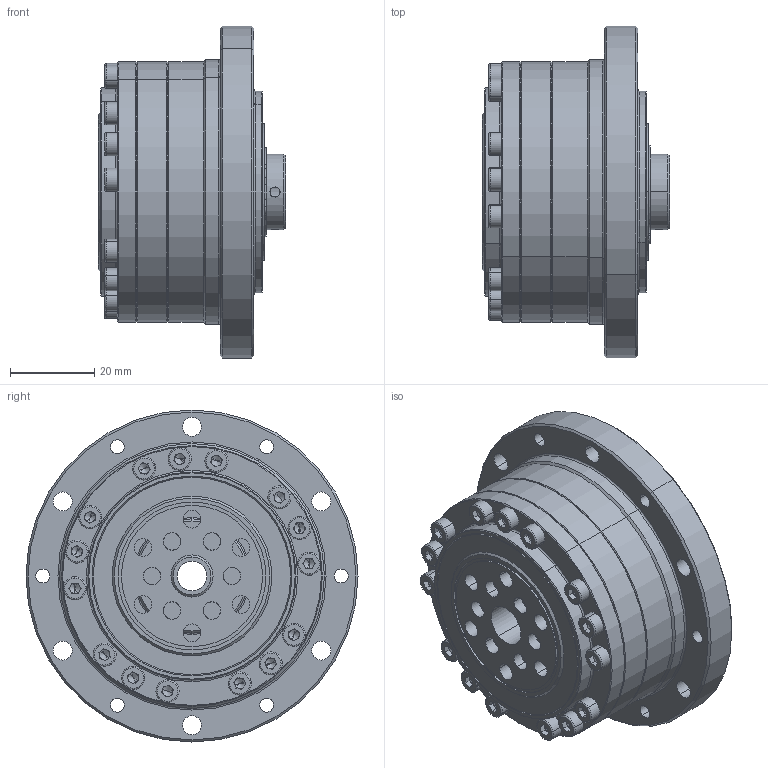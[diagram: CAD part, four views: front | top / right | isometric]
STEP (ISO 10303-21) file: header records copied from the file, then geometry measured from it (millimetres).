
FILE_DESCRIPTION (( 'STEP AP203' ), '1' );
FILE_NAME ('LCS-17-XXX-C-II.STEP', '2016-08-17T05:40:10', ( 'Windows 蚚誧' ), ( 'Users' ), 'SwSTEP 2.0', 'SolidWorks 2013', '' );
FILE_SCHEMA (( 'CONFIG_CONTROL_DESIGN' ));
Length unit declared in the file: millimetre
Products named in the file (18): LCS-17-XXX-C-II; socket head cap screw_din_DIN 912 M5 x 16 --- 16C; LJ-17-II; LCS-17-XXX-P01-II; SZ-17-II; LCS-17-XXX-P02-II; 粣噤18; LHS-17-XXX-P03-II; LCS-17-XXX-P04-II; RZC-17内外圈+钢球; DB-17-II; LCS-17-XXX-P05-II; RZC-17悵厥殤; YF-17-I; 柔性轴承RZC-17; socket head cap screw_din_DIN 912 M3 x 10 --- 10C; 疏楷汜ん17-II; socket head cap screw_din_DIN 912 M3 x 16 --- 16C
Assembly tree (35 placements, depth 4):
  LCS-17-XXX-C-II
    LCS-17-XXX-P01-II
    LCS-17-XXX-P02-II
    LCS-17-XXX-P04-II
    LCS-17-XXX-P05-II
    YF-17-I
    socket head cap screw_din_DIN 912 M3 x 10 --- 10C  x5
    socket head cap screw_din_DIN 912 M3 x 16 --- 16C  x10
    socket head cap screw_din_DIN 912 M5 x 16 --- 16C  x6
    疏楷汜ん17-II
      LJ-17-II
      SZ-17-II
      LHS-17-XXX-P03-II
      DB-17-II
      粣噤18
      柔性轴承RZC-17
        RZC-17内外圈+钢球
        RZC-17悵厥殤
Bounding box: 44.5 x 79 x 79 mm (x, y, z)
Volume: 95908.7 mm3; surface area: 72061.5 mm2
Topology: 58 solids, 58 shells, 1290 faces, 3034 edges, 1838 vertices
Faces by surface type: plane 493, cylinder 451, cone 164, torus 136, sphere 46
Entity records: 25984 total; most frequent: DIRECTION 4618, CARTESIAN_POINT 4063, ORIENTED_EDGE 3698, AXIS2_PLACEMENT_3D 1952, EDGE_CURVE 1849, VERTEX_POINT 1175, CIRCLE 1108, EDGE_LOOP 990
